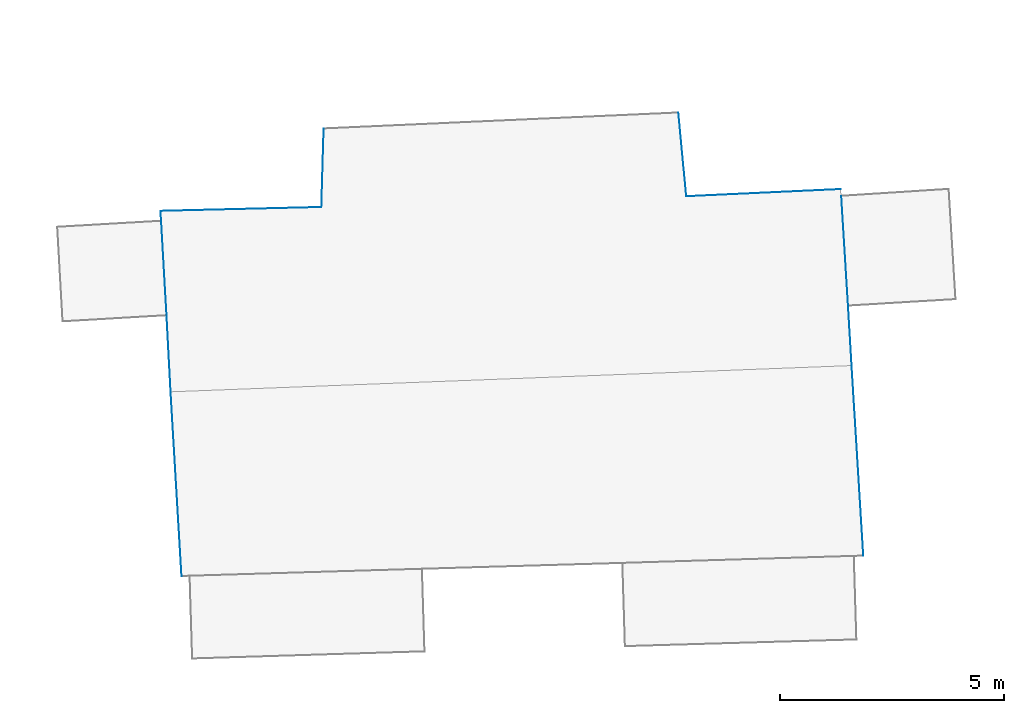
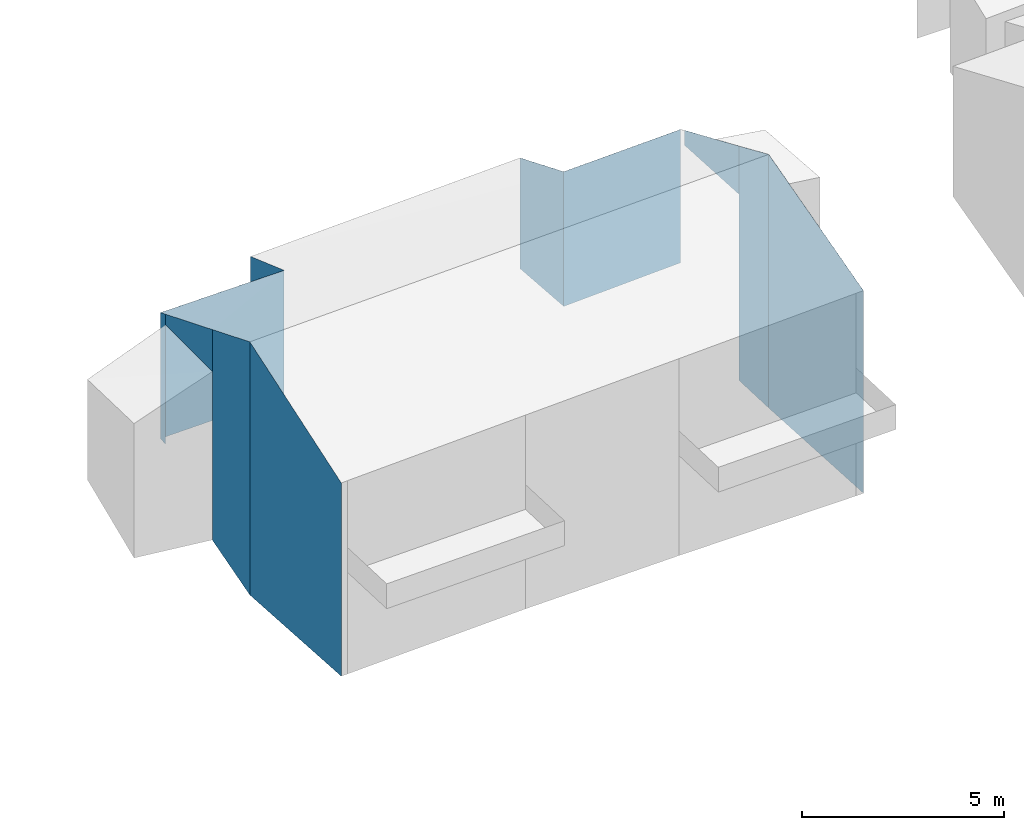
# Not in any storey, part 9 of 57: 11 walls.
"""IFC4 building model written with IfcOpenShell, lengths in metres."""

from ifc_helpers import new_model, entity, si_unit, converted_unit, origin, place, context, subcontext, project, spatial, face_set, surface_model, element, save


model = new_model("IFC4")

# Units and contexts
model_context = context("Model", 3, precision=1e-05, world=origin())
body_context = subcontext(model_context, "Body", "Model", "MODEL_VIEW")
ifc_project = project(units=[converted_unit("PLANEANGLEUNIT", "DEGREE", entity("IfcRatioMeasure", 0.0174532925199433), si_unit("PLANEANGLEUNIT", "RADIAN"), dimensions=[0, 0, 0, 0, 0, 0, 0]), si_unit("AREAUNIT", "SQUARE_METRE"), si_unit("LENGTHUNIT", "METRE")], contexts=[model_context])

# Site, building
site_placement = place(None, origin())
site = spatial("IfcSite", under=ifc_project, at=site_placement, Name="_site")
building_placement = place(site_placement, origin())
building = spatial("IfcBuilding", under=site, at=building_placement, Name="_building")

# Walls
wall_1_placement = place(building_placement, origin())
element("IfcWall", 1, at=wall_1_placement, inside=building, Name="Wall", PredefinedType="NOTDEFINED", context=body_context, shape_type="SurfaceModel", body=[
    surface_model("IfcFaceBasedSurfaceModel", [(203.688, 67.358, 111.16), (203.84, 64.913, 112.11), (203.84, 64.913, 110.65), (203.688, 67.358, 110.71)], [face_set([[[0, 1, 2, 3]]])]),
])
wall_2_placement = place(building_placement, origin())
element("IfcWall", 2, at=wall_2_placement, inside=building, Name="Wall", PredefinedType="NOTDEFINED", context=body_context, shape_type="SurfaceModel", body=[
    surface_model("IfcFaceBasedSurfaceModel", [(203.919, 63.58, 112.64), (204.18, 59.341, 111.0), (204.18, 59.341, 104.875), (203.919, 63.58, 104.971)], [face_set([[[0, 1, 2, 3]]])]),
])
wall_3_placement = place(building_placement, origin())
element("IfcWall", 3, at=wall_3_placement, inside=building, Name="Wall", PredefinedType="NOTDEFINED", context=body_context, shape_type="SurfaceModel", body=[
    surface_model("IfcFaceBasedSurfaceModel", [(203.84, 64.913, 112.11), (203.919, 63.58, 112.64), (203.919, 63.58, 104.971), (203.84, 64.913, 105.024)], [face_set([[[0, 1, 2, 3]]])]),
])
wall_4_placement = place(building_placement, origin())
element("IfcWall", 4, at=wall_4_placement, inside=building, Name="Wall", PredefinedType="NOTDEFINED", context=body_context, shape_type="SurfaceModel", body=[
    surface_model("IfcFaceBasedSurfaceModel", [(200.059, 69.214, 110.47), (200.235, 67.349, 111.12), (200.235, 67.349, 107.047), (200.059, 69.214, 107.124)], [face_set([[[0, 1, 2, 3]]])]),
])
wall_5_placement = place(building_placement, origin())
element("IfcWall", 5, at=wall_5_placement, inside=building, Name="Wall", PredefinedType="NOTDEFINED", context=body_context, shape_type="SurfaceModel", body=[
    surface_model("IfcFaceBasedSurfaceModel", [(192.105, 67.109, 111.13), (192.156, 68.859, 110.47), (192.156, 68.859, 107.608), (192.105, 67.109, 107.343)], [face_set([[[0, 1, 2, 3]]])]),
])
wall_6_placement = place(building_placement, origin())
element("IfcWall", 6, at=wall_6_placement, inside=building, Name="Wall", PredefinedType="NOTDEFINED", context=body_context, shape_type="SurfaceModel", body=[
    surface_model("IfcFaceBasedSurfaceModel", [(188.52, 67.023, 111.16), (192.105, 67.109, 111.13), (192.105, 67.109, 107.343), (188.52, 67.023, 107.353)], [face_set([[[0, 1, 2, 3]]])]),
])
wall_7_placement = place(building_placement, origin())
element("IfcWall", 7, at=wall_7_placement, inside=building, Name="Wall", PredefinedType="NOTDEFINED", context=body_context, shape_type="SurfaceModel", body=[
    surface_model("IfcFaceBasedSurfaceModel", [(188.535, 66.802, 111.24), (188.52, 67.023, 111.16), (188.52, 67.023, 107.353), (188.535, 66.802, 107.299)], [face_set([[[0, 1, 2, 3]]])]),
])
wall_8_placement = place(building_placement, origin())
element("IfcWall", 8, at=wall_8_placement, inside=building, Name="Wall", PredefinedType="NOTDEFINED", context=body_context, shape_type="SurfaceModel", body=[
    surface_model("IfcFaceBasedSurfaceModel", [(188.746, 62.995, 112.64), (188.656, 64.698, 112.01), (188.656, 64.698, 105.651), (188.746, 62.995, 104.99)], [face_set([[[0, 1, 2, 3]]])]),
])
wall_9_placement = place(building_placement, origin())
element("IfcWall", 9, at=wall_9_placement, inside=building, Name="Wall", PredefinedType="NOTDEFINED", context=body_context, shape_type="SurfaceModel", body=[
    surface_model("IfcFaceBasedSurfaceModel", [(188.656, 64.698, 112.01), (188.535, 66.802, 111.24), (188.535, 66.802, 110.92), (188.656, 64.698, 110.74)], [face_set([[[0, 1, 2, 3]]])]),
])
wall_10_placement = place(building_placement, origin())
element("IfcWall", 10, at=wall_10_placement, inside=building, Name="Wall", PredefinedType="NOTDEFINED", context=body_context, shape_type="SurfaceModel", body=[
    surface_model("IfcFaceBasedSurfaceModel", [(188.99, 58.887, 110.78), (188.746, 62.995, 112.64), (188.746, 62.995, 104.99), (188.99, 58.887, 104.938)], [face_set([[[0, 1, 2, 3]]])]),
])
wall_11_placement = place(building_placement, origin())
element("IfcWall", 11, at=wall_11_placement, inside=building, Name="Wall", PredefinedType="NOTDEFINED", context=body_context, shape_type="SurfaceModel", body=[
    surface_model("IfcFaceBasedSurfaceModel", [(200.235, 67.349, 111.12), (203.671, 67.509, 111.1), (203.671, 67.509, 107.069), (200.235, 67.349, 107.047)], [face_set([[[0, 1, 2, 3]]])]),
])

save(model, "model.ifc")
